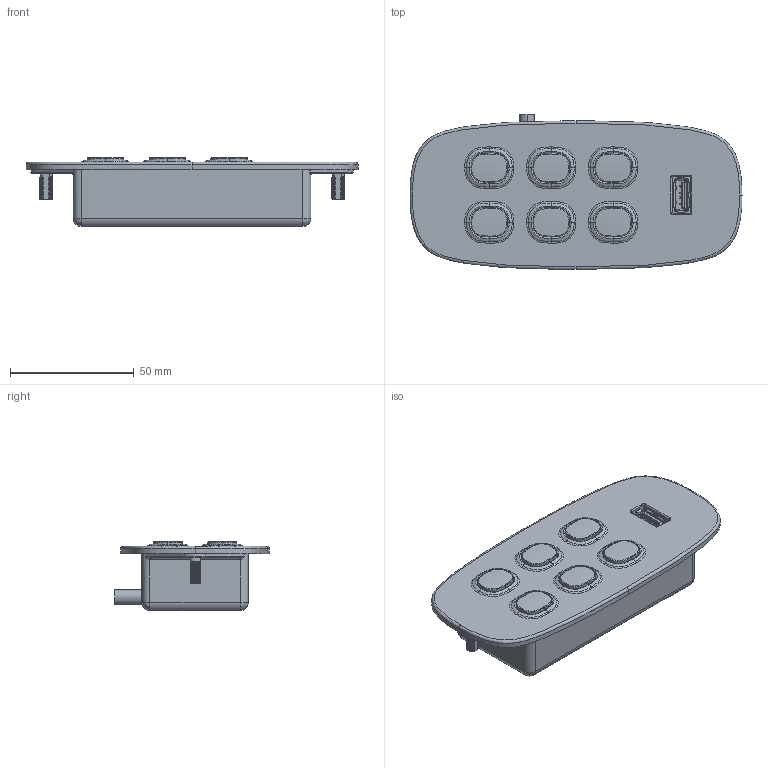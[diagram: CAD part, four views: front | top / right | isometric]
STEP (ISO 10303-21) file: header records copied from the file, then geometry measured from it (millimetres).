
FILE_DESCRIPTION (( 'STEP AP203' ), '1' );
FILE_NAME ('3D_TFH34.STEP', '2023-09-19T05:53:30', ( '' ), ( '' ), 'SwSTEP 2.0', 'SolidWorks 2015', '' );
FILE_SCHEMA (( 'CONFIG_CONTROL_DESIGN' ));
Products named in the file (2): 3D_TFH34
Bounding box: 134 x 62.5 x 27.88 mm (x, y, z)
Volume: 118151.2 mm3; surface area: 36370.2 mm2
Topology: 10 solids, 10 shells, 1482 faces, 3954 edges, 2501 vertices
Faces by surface type: plane 672, cylinder 415, bspline 391, cone 4
Entity records: 135905 total; most frequent: CARTESIAN_POINT 101913, ORIENTED_EDGE 7900, DIRECTION 5876, EDGE_CURVE 3950, VERTEX_POINT 2501, VECTOR 2340, LINE 2340, AXIS2_PLACEMENT_3D 1768
